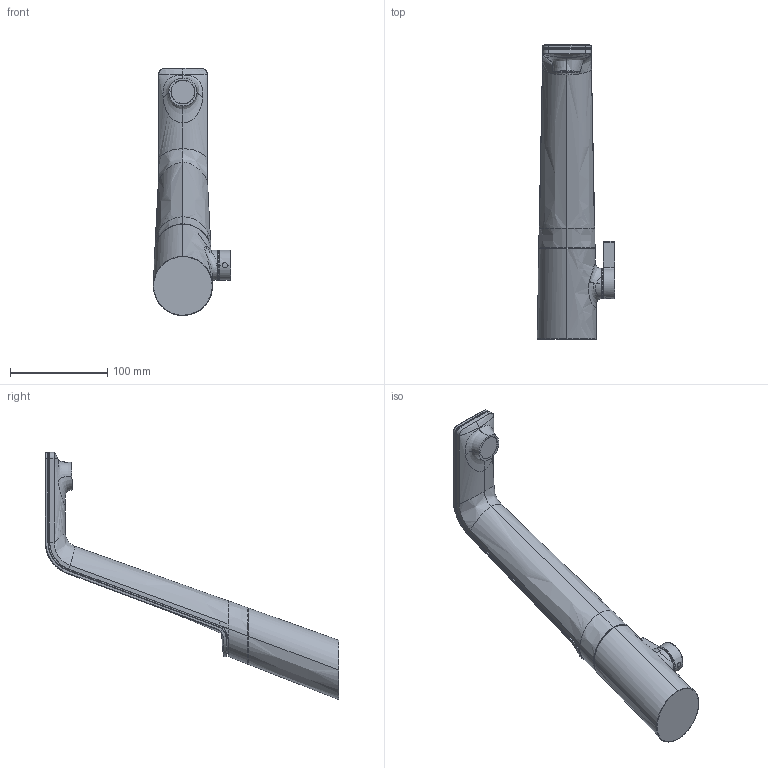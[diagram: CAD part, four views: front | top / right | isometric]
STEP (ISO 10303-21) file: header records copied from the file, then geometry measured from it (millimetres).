
FILE_DESCRIPTION (( 'STEP AP203' ), '1' );
FILE_NAME ('8720F+8725F+07762203+07772203.STEP', '2019-06-03T11:47:23', ( '' ), ( '' ), 'SwSTEP 2.0', 'SolidWorks 2016', '' );
FILE_SCHEMA (( 'CONFIG_CONTROL_DESIGN' ));
Length unit declared in the file: millimetre
Products named in the file (1): 8720F+8725F+07762203+07772203
Bounding box: 79.65 x 302.26 x 254.16 mm (x, y, z)
Volume: 666139.2 mm3; surface area: 152887.1 mm2
Topology: 9 solids, 9 shells, 398 faces, 977 edges, 595 vertices
Faces by surface type: bspline 192, plane 95, cylinder 67, torus 24, cone 18, sphere 2
Entity records: 31634 total; most frequent: CARTESIAN_POINT 23900, ORIENTED_EDGE 1954, DIRECTION 1036, EDGE_CURVE 977, VERTEX_POINT 595, B_SPLINE_CURVE_WITH_KNOTS 478, EDGE_LOOP 402, ADVANCED_FACE 398
